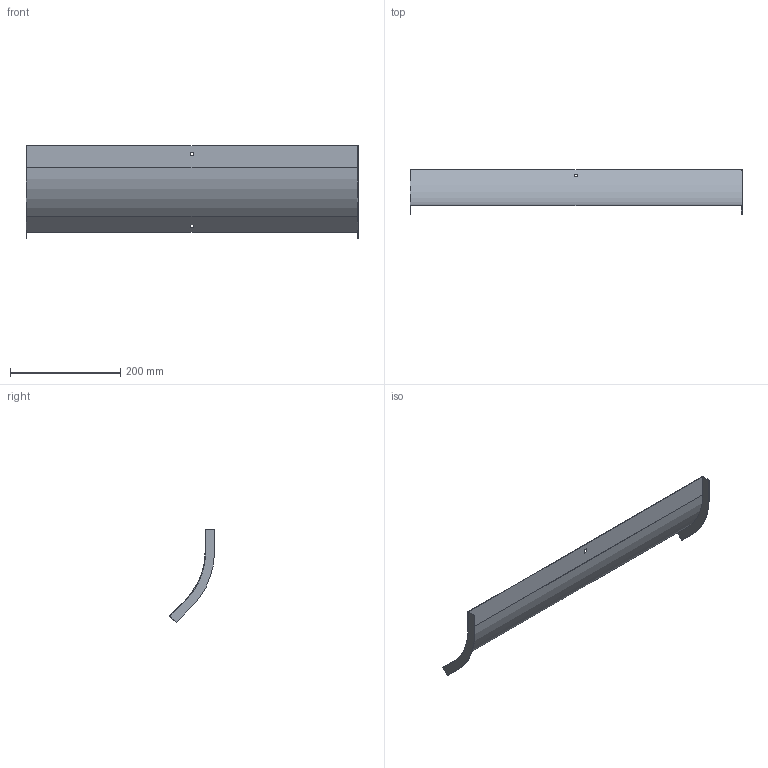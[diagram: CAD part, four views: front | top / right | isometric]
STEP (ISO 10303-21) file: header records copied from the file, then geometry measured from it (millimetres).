
FILE_DESCRIPTION (( 'STEP AP214' ), '1' );
FILE_NAME ('OS4_600.step', '2025-07-16T09:16:59', ( '' ), ( '' ), 'SwSTEP 2.0', 'SolidWorks 2023', '' );
FILE_SCHEMA (( 'AUTOMOTIVE_DESIGN' ));
Length unit declared in the file: millimetre
Products named in the file (1): OS4_600
Bounding box: 602 x 81.6 x 167.99 mm (x, y, z)
Volume: 112843.5 mm3; surface area: 227387.6 mm2
Topology: 1 solids, 1 shells, 26 faces, 72 edges, 48 vertices
Faces by surface type: plane 22, cylinder 4
Entity records: 855 total; most frequent: CARTESIAN_POINT 147, ORIENTED_EDGE 144, DIRECTION 134, EDGE_CURVE 72, LINE 64, VECTOR 64, VERTEX_POINT 48, AXIS2_PLACEMENT_3D 35
